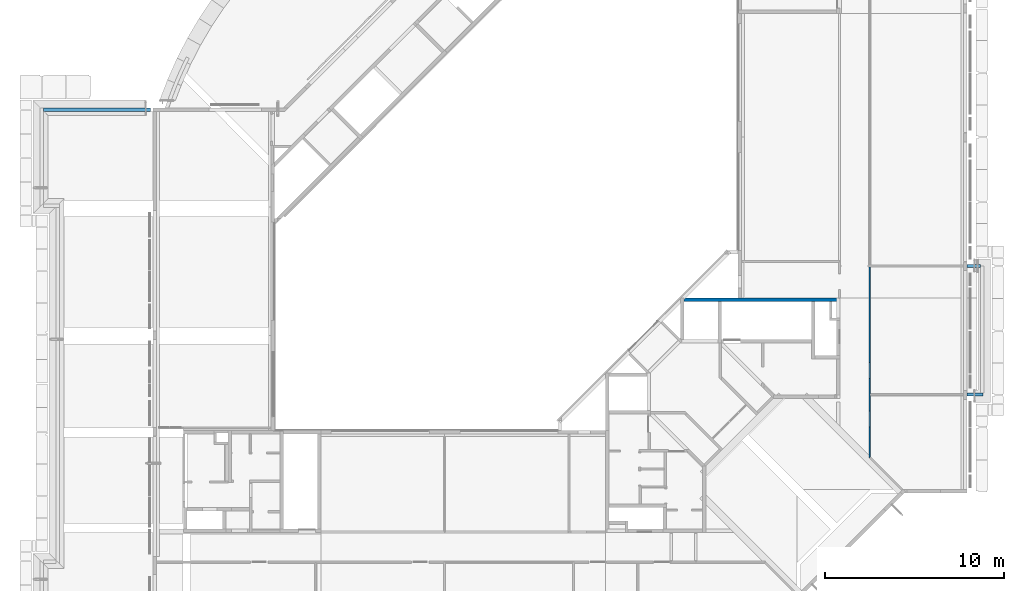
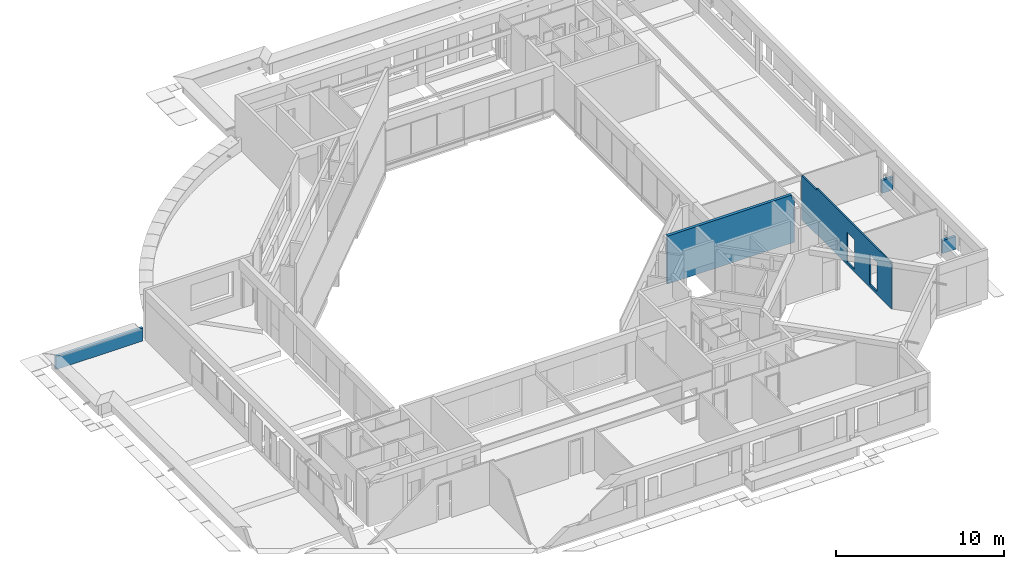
# One storey, part 24 of 38: 5 walls.
"""IFC4X3_ADD2 building model written with IfcOpenShell, lengths in millimetres."""

from ifc_helpers import new_model, si_unit, direction, frame, origin_with_axes, place, context, subcontext, project, spatial, polygons, source, transform, mapped, type_object, type_shapes, element, save


model = new_model("IFC4X3_ADD2")

# Units and contexts
model_context = context("Model", 3, precision=1e-05, world=origin_with_axes(), true_north=direction((0.0, 1.0)))
body_context = subcontext(model_context, "Body", "Model", "MODEL_VIEW")
ifc_project = project(units=[si_unit("LENGTHUNIT", "METRE", prefix="MILLI"), si_unit("AREAUNIT", "SQUARE_METRE"), si_unit("VOLUMEUNIT", "CUBIC_METRE"), si_unit("PLANEANGLEUNIT", "RADIAN"), si_unit("TIMEUNIT", "SECOND"), si_unit("MASSUNIT", "GRAM")], contexts=[model_context])

# Site, building, storey
site_placement = place(None, origin_with_axes())
site = spatial("IfcSite", under=ifc_project, at=site_placement, Name="Site", CompositionType="ELEMENT")
building_placement = place(site_placement, origin_with_axes())
building = spatial("IfcBuilding", under=site, at=building_placement, Name="IFC Building Story")
storey_placement = place(building_placement, frame((0.0, 0.0, 10800.0), z_axis=(0.0, 0.0, 1.0), x_axis=(1.0, 0.0, 0.0)))
storey = spatial("IfcBuildingStorey", under=building, at=storey_placement, Name="030", Elevation=10800.0)

# Walls
wall_type = type_object("IfcWallType", Name="Basic Wall_BB_10.01.41#03_Gipskartonwand_43dB_MS100 _ 25.50.25_ 100 mm67", PredefinedType="NOTDEFINED")
shared_shape = source(origin_with_axes(), body_context, "Body", "Tessellation", [
    polygons([(4509.11688245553, 37.5000000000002, 200.000000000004), (5399.11688245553, 37.4999999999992, 200.000000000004), (5399.11688245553, 49.9999999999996, 200.000000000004), (4509.11688245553, 49.9999999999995, 200.000000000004), (100.0, 49.9999999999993, 200.000000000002), (100.0, 49.9999999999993, 2.16573425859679e-12), (87.5000000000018, 37.5, 2.16573425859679e-12), (87.5000000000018, 37.5, 200.000000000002), (87.5000000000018, 37.5, 3200.0), (100.0, 49.9999999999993, 3200.0), (10759.1168824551, 49.9999999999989, 2.16573425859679e-12), (10759.1168824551, 49.9999999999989, 200.000000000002), (10759.1168824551, 49.9999999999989, 3200.0), (10759.1168824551, 37.4999999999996, 3200.0), (10759.1168824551, 37.4999999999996, 200.000000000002), (10759.1168824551, 37.4999999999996, 2.16573425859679e-12), (9009.11688245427, 37.4999999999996, 3200.0), (9009.11688245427, 37.4999999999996, 3340.0), (228.92135623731, 37.4999999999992, 3340.0), (228.921356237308, 37.4999999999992, 3200.0), (4509.11688245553, 37.5000000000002, 2360.00000000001), (5399.11688245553, 37.4999999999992, 2360.00000000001), (2709.11688245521, 37.5, 200.000000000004), (1819.11688245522, 37.5, 200.000000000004), (1819.11688245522, 37.5, 2360.00000000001), (2709.11688245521, 37.5, 2360.00000000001), (241.421356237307, 49.9999999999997, 3200.0), (241.421356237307, 49.9999999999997, 3340.0), (9009.11688245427, 49.9999999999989, 3340.0), (9009.11688245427, 49.9999999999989, 3200.0), (5399.11688245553, 49.9999999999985, 2360.00000000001), (4509.11688245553, 49.9999999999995, 2360.00000000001), (1819.11688245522, 49.9999999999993, 200.000000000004), (2709.11688245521, 49.9999999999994, 200.000000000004), (2709.11688245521, 49.9999999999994, 2360.00000000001), (1819.11688245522, 49.9999999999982, 2360.00000000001)], [[[1, 2, 3, 4]], [[5, 6, 7]], [[5, 7, 8]], [[8, 9, 10]], [[8, 10, 5]], [[12, 13, 14]], [[12, 14, 15]], [[15, 16, 11]], [[15, 11, 12]], [[7, 6, 11, 16]], [[2, 7, 16]], [[17, 18, 22]], [[22, 2, 15]], [[22, 15, 14]], [[22, 14, 17]], [[2, 16, 15]], [[18, 19, 21]], [[18, 21, 22]], [[24, 8, 7]], [[7, 23, 24]], [[24, 25, 20]], [[24, 20, 9]], [[24, 9, 8]], [[23, 7, 1]], [[1, 21, 26]], [[1, 26, 23]], [[26, 21, 19]], [[19, 20, 25]], [[19, 25, 26]], [[7, 2, 1]], [[3, 12, 11]], [[11, 4, 3]], [[11, 6, 4]], [[35, 36, 30]], [[32, 4, 34]], [[32, 34, 35]], [[35, 30, 32]], [[34, 4, 6]], [[6, 33, 34]], [[30, 31, 32]], [[30, 13, 12]], [[30, 12, 3]], [[30, 3, 31]], [[36, 27, 28]], [[36, 28, 29]], [[36, 29, 30]], [[36, 33, 5]], [[36, 5, 10]], [[36, 10, 27]], [[33, 6, 5]], [[13, 30, 17, 14]], [[33, 36, 25, 24]], [[4, 32, 21, 1]], [[35, 34, 23, 26]], [[31, 3, 2, 22]], [[32, 31, 22, 21]], [[36, 35, 26, 25]], [[28, 27, 20, 19]], [[29, 28, 19, 18]], [[30, 29, 18, 17]], [[27, 10, 9, 20]], [[24, 23, 34, 33]]]),
    polygons([(5399.11688245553, 37.4999999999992, 200.000000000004), (4509.11688245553, 37.5000000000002, 200.000000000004), (4509.11688245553, 24.9999999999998, 200.000000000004), (5399.11688245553, 24.9999999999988, 200.000000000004), (10759.1168824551, 24.9999999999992, 2.16573425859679e-12), (10759.1168824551, 37.4999999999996, 2.16573425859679e-12), (10759.1168824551, 37.4999999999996, 200.000000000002), (10759.1168824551, 24.9999999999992, 200.000000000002), (92.6776695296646, 24.9999999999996, 2.16573425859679e-12), (105.177669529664, 37.5, 2.16573425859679e-12), (105.177669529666, 37.5, 200.000000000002), (105.177669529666, 37.5, 3200.0), (228.921356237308, 37.4999999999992, 3200.0), (228.92135623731, 37.4999999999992, 3340.0), (9009.11688245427, 37.4999999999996, 3340.0), (9009.11688245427, 37.4999999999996, 3200.0), (10771.6168824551, 37.4999999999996, 3200.0), (10771.6168824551, 37.4999999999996, 200.000000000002), (5399.11688245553, 37.4999999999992, 2360.00000000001), (4509.11688245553, 37.5000000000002, 2360.00000000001), (1819.11688245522, 37.5, 200.000000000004), (2709.11688245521, 37.5, 200.000000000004), (2709.11688245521, 37.5, 2360.00000000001), (1819.11688245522, 37.5, 2360.00000000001), (10771.6168824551, 24.9999999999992, 200.000000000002), (10771.6168824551, 24.9999999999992, 3200.0), (9009.11688245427, 24.9999999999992, 3200.0), (9009.11688245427, 24.9999999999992, 3340.0), (216.421356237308, 24.9999999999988, 3340.0), (216.421356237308, 24.9999999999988, 3200.0), (92.6776695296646, 24.9999999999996, 3200.0), (92.6776695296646, 24.9999999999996, 200.000000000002), (4509.11688245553, 24.9999999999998, 2360.00000000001), (5399.11688245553, 24.9999999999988, 2360.00000000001), (2709.11688245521, 24.9999999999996, 200.000000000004), (1819.11688245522, 24.9999999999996, 200.000000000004), (1819.11688245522, 24.9999999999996, 2360.00000000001), (2709.11688245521, 24.9999999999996, 2360.00000000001)], [[[1, 2, 3, 4]], [[5, 6, 7, 8]], [[6, 5, 9, 10]], [[1, 7, 6]], [[6, 2, 1]], [[6, 10, 2]], [[23, 24, 16]], [[20, 2, 22]], [[20, 22, 23]], [[23, 16, 20]], [[22, 2, 10]], [[10, 21, 22]], [[16, 19, 20]], [[16, 17, 7]], [[16, 7, 1]], [[16, 1, 19]], [[17, 18, 7]], [[24, 13, 14]], [[24, 14, 15]], [[24, 15, 16]], [[24, 21, 11]], [[24, 11, 12]], [[24, 12, 13]], [[21, 10, 11]], [[4, 9, 5]], [[8, 25, 26]], [[27, 28, 34]], [[8, 26, 27]], [[8, 27, 34]], [[8, 34, 4]], [[4, 5, 8]], [[28, 29, 33]], [[28, 33, 34]], [[36, 32, 9]], [[9, 35, 36]], [[36, 37, 30]], [[36, 30, 31]], [[36, 31, 32]], [[35, 9, 3]], [[3, 33, 38]], [[3, 38, 35]], [[38, 33, 29]], [[29, 30, 37]], [[29, 37, 38]], [[9, 4, 3]], [[11, 10, 9]], [[11, 9, 32]], [[32, 31, 12]], [[32, 12, 11]], [[27, 26, 17, 16]], [[18, 25, 8, 7]], [[21, 24, 37, 36]], [[2, 20, 33, 3]], [[23, 22, 35, 38]], [[19, 1, 4, 34]], [[20, 19, 34, 33]], [[24, 23, 38, 37]], [[14, 13, 30, 29]], [[15, 14, 29, 28]], [[16, 15, 28, 27]], [[17, 26, 25, 18]], [[12, 31, 30, 13]], [[22, 21, 36, 35]]]),
    polygons([(5399.11688245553, 24.9999999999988, 200.000000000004), (4509.11688245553, 24.9999999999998, 200.000000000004), (4509.11688245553, -24.9999999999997, 200.000000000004), (5399.11688245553, -25.0, 200.000000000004), (10759.1168824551, -25.0, 2.16573425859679e-12), (10759.1168824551, 24.9999999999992, 2.16573425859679e-12), (10759.1168824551, 24.9999999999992, 200.000000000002), (10759.1168824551, -25.0, 200.000000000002), (60.3553390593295, -25.0, 2.16573425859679e-12), (110.355339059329, 24.9999999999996, 2.16573425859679e-12), (110.355339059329, 24.9999999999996, 200.000000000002), (110.355339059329, 24.9999999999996, 3200.0), (216.421356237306, 24.9999999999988, 3200.0), (216.421356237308, 24.9999999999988, 3340.0), (9009.11688245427, 24.9999999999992, 3340.0), (9009.11688245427, 24.9999999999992, 3200.0), (10784.1168824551, 24.9999999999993, 3200.0), (10784.1168824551, 24.9999999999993, 200.000000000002), (5399.11688245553, 24.9999999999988, 2360.00000000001), (4509.11688245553, 24.9999999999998, 2360.00000000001), (1819.11688245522, 24.9999999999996, 200.000000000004), (2709.11688245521, 24.9999999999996, 200.000000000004), (2709.11688245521, 24.9999999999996, 2360.00000000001), (1819.11688245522, 24.9999999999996, 2360.00000000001), (10784.1168824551, -25.0, 200.000000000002), (10784.1168824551, -25.0, 3200.0), (9009.11688245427, -25.0, 3200.0), (9009.11688245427, -25.0, 3340.0), (166.421356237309, -24.9999999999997, 3340.0), (166.421356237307, -24.9999999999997, 3200.0), (60.3553390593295, -25.0, 3200.0), (60.3553390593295, -25.0, 200.000000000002), (4509.11688245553, -24.9999999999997, 2360.00000000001), (5399.11688245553, -25.0, 2360.00000000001), (2709.11688245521, -24.9999999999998, 200.000000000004), (1819.11688245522, -24.9999999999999, 200.000000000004), (1819.11688245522, -24.9999999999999, 2360.00000000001), (2709.11688245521, -24.9999999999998, 2360.00000000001)], [[[1, 2, 3, 4]], [[5, 6, 7, 8]], [[6, 5, 9, 10]], [[1, 7, 6]], [[6, 2, 1]], [[6, 10, 2]], [[23, 24, 16]], [[20, 2, 22]], [[20, 22, 23]], [[23, 16, 20]], [[22, 2, 10]], [[10, 21, 22]], [[16, 19, 20]], [[16, 17, 7]], [[16, 7, 1]], [[16, 1, 19]], [[17, 18, 7]], [[24, 13, 14]], [[24, 14, 15]], [[24, 15, 16]], [[24, 21, 11]], [[24, 11, 12]], [[24, 12, 13]], [[21, 10, 11]], [[4, 9, 5]], [[8, 25, 26]], [[27, 28, 34]], [[8, 26, 27]], [[8, 27, 34]], [[8, 34, 4]], [[4, 5, 8]], [[28, 29, 33]], [[28, 33, 34]], [[36, 32, 9]], [[9, 35, 36]], [[36, 37, 30]], [[36, 30, 31]], [[36, 31, 32]], [[35, 9, 3]], [[3, 33, 38]], [[3, 38, 35]], [[38, 33, 29]], [[29, 30, 37]], [[29, 37, 38]], [[9, 4, 3]], [[11, 10, 9]], [[11, 9, 32]], [[32, 31, 12]], [[32, 12, 11]], [[27, 26, 17, 16]], [[18, 25, 8, 7]], [[21, 24, 37, 36]], [[2, 20, 33, 3]], [[23, 22, 35, 38]], [[19, 1, 4, 34]], [[20, 19, 34, 33]], [[24, 23, 38, 37]], [[14, 13, 30, 29]], [[15, 14, 29, 28]], [[16, 15, 28, 27]], [[17, 26, 25, 18]], [[12, 31, 30, 13]], [[22, 21, 36, 35]]]),
    polygons([(5399.11688245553, -25.0, 200.000000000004), (4509.11688245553, -24.9999999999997, 200.000000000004), (4509.11688245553, -37.5000000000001, 200.000000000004), (5399.11688245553, -37.5000000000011, 200.000000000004), (10759.1168824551, -37.5000000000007, 2.16573425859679e-12), (10759.1168824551, -25.0, 2.16573425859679e-12), (10759.1168824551, -25.0, 200.000000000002), (10759.1168824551, -25.0, 3200.0), (10759.1168824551, -37.5000000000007, 3200.0), (10759.1168824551, -37.5000000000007, 200.000000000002), (118.566017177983, -37.5000000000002, 2.16573425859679e-12), (131.066017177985, -24.9999999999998, 2.16573425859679e-12), (131.066017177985, -24.9999999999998, 200.000000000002), (131.066017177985, -24.9999999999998, 3200.0), (166.421356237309, -24.9999999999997, 3200.0), (166.421356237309, -24.9999999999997, 3340.0), (9009.11688245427, -25.0, 3340.0), (9009.11688245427, -25.0, 3200.0), (5399.11688245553, -25.0, 2360.00000000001), (4509.11688245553, -24.9999999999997, 2360.00000000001), (1819.11688245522, -24.9999999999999, 200.000000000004), (2709.11688245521, -24.9999999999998, 200.000000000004), (2709.11688245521, -24.9999999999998, 2360.00000000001), (1819.11688245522, -24.9999999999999, 2360.00000000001), (9009.11688245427, -37.5000000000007, 3200.0), (9009.11688245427, -37.5000000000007, 3340.0), (153.92135623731, -37.5000000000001, 3340.0), (153.92135623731, -37.5000000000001, 3200.0), (118.566017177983, -37.5000000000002, 3200.0), (118.566017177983, -37.5000000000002, 200.000000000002), (4509.11688245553, -37.5000000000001, 2360.00000000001), (5399.11688245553, -37.5000000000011, 2360.00000000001), (2709.11688245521, -37.5000000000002, 200.000000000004), (1819.11688245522, -37.5000000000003, 200.000000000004), (1819.11688245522, -37.5000000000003, 2360.00000000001), (2709.11688245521, -37.5000000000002, 2360.00000000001)], [[[1, 2, 3, 4]], [[7, 8, 9]], [[7, 9, 10]], [[10, 5, 6]], [[10, 6, 7]], [[6, 5, 11, 12]], [[1, 7, 6]], [[6, 2, 1]], [[6, 12, 2]], [[19, 20, 18]], [[18, 8, 7]], [[18, 7, 1]], [[18, 1, 19]], [[20, 15, 16]], [[20, 16, 17]], [[20, 17, 18]], [[24, 21, 13]], [[24, 13, 15]], [[15, 23, 24]], [[15, 20, 23]], [[20, 2, 22]], [[20, 22, 23]], [[22, 2, 12]], [[12, 21, 22]], [[13, 14, 15]], [[21, 12, 13]], [[4, 11, 5]], [[25, 26, 32]], [[32, 4, 10]], [[32, 10, 9]], [[32, 9, 25]], [[4, 5, 10]], [[26, 27, 31]], [[26, 31, 32]], [[30, 11, 28]], [[28, 29, 30]], [[33, 11, 3]], [[3, 31, 36]], [[3, 36, 33]], [[36, 31, 27]], [[27, 35, 36]], [[28, 11, 34]], [[28, 34, 35]], [[35, 27, 28]], [[11, 33, 34]], [[11, 4, 3]], [[13, 12, 11]], [[13, 11, 30]], [[30, 29, 14]], [[30, 14, 13]], [[25, 9, 8, 18]], [[21, 24, 35, 34]], [[2, 20, 31, 3]], [[23, 22, 33, 36]], [[19, 1, 4, 32]], [[20, 19, 32, 31]], [[24, 23, 36, 35]], [[16, 15, 28, 27]], [[17, 16, 27, 26]], [[18, 17, 26, 25]], [[14, 29, 28, 15]], [[22, 21, 34, 33]]]),
    polygons([(5399.11688245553, -37.5000000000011, 200.000000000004), (4509.11688245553, -37.5000000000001, 200.000000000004), (4509.11688245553, -50.0, 200.000000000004), (5399.11688245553, -50.0, 200.000000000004), (10759.1168824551, -37.5000000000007, 200.000000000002), (10759.1168824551, -37.5000000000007, 2.16573425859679e-12), (136.243686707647, -37.5000000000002, 2.16573425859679e-12), (136.243686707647, -37.5000000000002, 200.000000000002), (136.243686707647, -37.5000000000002, 3200.0), (153.92135623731, -37.5000000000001, 3200.0), (153.92135623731, -37.5000000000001, 3340.0), (9009.11688245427, -37.5000000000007, 3340.0), (9009.11688245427, -37.5000000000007, 3200.0), (10759.1168824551, -37.5000000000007, 3200.0), (5399.11688245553, -37.5000000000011, 2360.00000000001), (4509.11688245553, -37.5000000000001, 2360.00000000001), (1819.11688245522, -37.5000000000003, 200.000000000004), (2709.11688245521, -37.5000000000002, 200.000000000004), (2709.11688245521, -37.5000000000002, 2360.00000000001), (1819.11688245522, -37.5000000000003, 2360.00000000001), (10759.1168824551, -50.0000000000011, 3200.0), (10759.1168824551, -50.0000000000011, 200.000000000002), (10759.1168824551, -50.0000000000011, 2.16573425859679e-12), (141.42135623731, -50.0, 2.16573425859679e-12), (123.743686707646, -50.0, 2.16573425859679e-12), (9009.11688245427, -50.0000000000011, 3200.0), (9009.11688245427, -50.0000000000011, 3340.0), (3659.11688245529, -50.0, 3340.0), (3559.11688245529, -50.0, 3340.0), (141.42135623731, -50.0, 3340.0), (141.421356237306, -50.0, 3200.0), (123.743686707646, -50.0, 3200.0), (123.743686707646, -50.0, 200.000000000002), (4509.11688245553, -50.0, 2360.00000000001), (5399.11688245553, -50.0000000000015, 2360.00000000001), (2709.11688245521, -50.0, 200.000000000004), (1819.11688245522, -50.0, 200.000000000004), (1819.11688245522, -50.0, 2360.00000000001), (2709.11688245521, -50.0, 2360.00000000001)], [[[1, 2, 3, 4]], [[1, 5, 6]], [[6, 2, 1]], [[6, 7, 2]], [[15, 16, 13]], [[13, 14, 5]], [[13, 5, 1]], [[13, 1, 15]], [[16, 10, 11]], [[16, 11, 12]], [[16, 12, 13]], [[20, 17, 8]], [[20, 8, 10]], [[10, 19, 20]], [[10, 16, 19]], [[16, 2, 18]], [[16, 18, 19]], [[18, 2, 7]], [[7, 17, 18]], [[8, 9, 10]], [[17, 7, 8]], [[5, 14, 21]], [[5, 21, 22]], [[22, 23, 6]], [[22, 6, 5]], [[24, 25, 7]], [[7, 6, 23]], [[7, 23, 24]], [[4, 24, 23]], [[26, 27, 35]], [[35, 4, 22]], [[35, 22, 21]], [[35, 21, 26]], [[4, 23, 22]], [[27, 28, 35]], [[28, 34, 35]], [[33, 25, 24]], [[33, 24, 31]], [[31, 32, 33]], [[36, 24, 3]], [[3, 29, 39]], [[3, 39, 36]], [[29, 30, 38]], [[29, 38, 39]], [[31, 24, 37]], [[31, 37, 38]], [[38, 30, 31]], [[24, 36, 37]], [[3, 34, 28]], [[3, 28, 29]], [[24, 4, 3]], [[33, 32, 9]], [[33, 9, 8]], [[8, 7, 25]], [[8, 25, 33]], [[14, 13, 26, 21]], [[17, 20, 38, 37]], [[2, 16, 34, 3]], [[19, 18, 36, 39]], [[15, 1, 4, 35]], [[16, 15, 35, 34]], [[20, 19, 39, 38]], [[11, 10, 31, 30]], [[28, 27, 12]], [[12, 29, 28]], [[12, 11, 29]], [[11, 30, 29]], [[13, 12, 27, 26]], [[10, 9, 32, 31]], [[18, 17, 37, 36]]]),
])
type_shapes(wall_type, [shared_shape])
wall_1_placement = place(storey_placement, frame((-5350.0, 11090.883117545, -200.0), z_axis=(0.0, 0.0, 1.0), x_axis=(0.0, 1.0, 0.0)))
element("IfcWall", 1, at=wall_1_placement, inside=storey, type_object=wall_type, Name="Basic Wall:BB_10.01.41#03_Gipskartonwand_43dB_MS100 / 25.50.25, 100 mm", ObjectType="Basic Wall:BB_10.01.41#03_Gipskartonwand_43dB_MS100 / 25.50.25, 100 mm", PredefinedType="PARTITIONING", context=body_context, shape_type="MappedRepresentation", body=[
    mapped(shared_shape, transform((0.0, 0.0, 0.0))),
])
wall_2_placement = place(storey_placement, frame((0.0, 0.0, -10800.0), z_axis=(0.0, 0.0, 1.0), x_axis=(1.0, 0.0, 0.0)))
element("IfcWall", 2, at=wall_2_placement, inside=storey, Name="Basic Wall:BB_XX_Wand uit beton, 200 mm", ObjectType="Basic Wall:BB_XX_Wand uit beton, 200 mm", PredefinedType="SOLIDWALL", context=body_context, shape_type="Tessellation", body=[
    polygons([(-15715.0, 19900.0, 10720.0), (-13815.0, 19900.0, 10720.0), (-13615.0, 19900.0, 10720.0), (-8600.0, 19900.0, 10720.0), (-8400.0, 19900.0, 10720.0), (-7025.0, 19900.0, 10720.0), (-7025.0, 19900.0, 13940.0), (-7200.000000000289, 19900.0, 13940.0), (-7200.000000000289, 19900.0, 14200.0), (-8400.0, 19900.0, 14200.0), (-8600.0, 19900.0, 14200.0), (-13615.0, 19900.0, 14200.0), (-13815.0, 19900.0, 14200.0), (-15715.0, 19900.0, 14200.0), (-7025.0, 20100.0, 10720.0), (-15715.0, 20100.0, 10720.0), (-15715.0, 20100.0, 14200.0), (-7200.000000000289, 20100.0, 14200.0), (-7200.000000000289, 20100.0, 13940.0), (-7025.0, 20100.0, 13940.0)], [[[8, 9, 10]], [[8, 10, 5]], [[8, 5, 6]], [[6, 7, 8]], [[10, 11, 4]], [[10, 4, 5]], [[11, 12, 3]], [[11, 3, 4]], [[12, 13, 2]], [[12, 2, 3]], [[13, 14, 1]], [[13, 1, 2]], [[19, 20, 15]], [[19, 15, 16]], [[19, 16, 17]], [[17, 18, 19]], [[2, 1, 16]], [[16, 3, 2]], [[3, 16, 15]], [[15, 4, 3]], [[15, 5, 4]], [[15, 6, 5]], [[6, 15, 20, 7]], [[10, 9, 18]], [[18, 11, 10]], [[18, 12, 11]], [[18, 17, 12]], [[17, 13, 12]], [[17, 14, 13]], [[19, 8, 7, 20]], [[8, 19, 18, 9]], [[14, 17, 16, 1]]]),
])
wall_3_placement = place(storey_placement, frame((0.0, 0.0, -10800.0), z_axis=(0.0, 0.0, 1.0), x_axis=(1.0, 0.0, 0.0)))
element("IfcWall", 3, at=wall_3_placement, inside=storey, Name="Basic Wall:BB_XX_Wand uit beton, 190 mm", ObjectType="Basic Wall:BB_XX_Wand uit beton, 190 mm", PredefinedType="SOLIDWALL", context=body_context, shape_type="Tessellation", body=[
    polygons([(-51505.0, 30535.0, 10600.0), (-45529.99999999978, 30535.0, 10600.0), (-45529.99999999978, 30535.0, 11541.0), (-45759.00000000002, 30535.0, 11541.0), (-45759.00000000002, 30535.0, 11537.99999999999), (-45831.00000000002, 30535.0, 11537.99999999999), (-45831.00000000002, 30535.0, 11541.0), (-51505.0, 30535.0, 11541.0), (-45529.99999999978, 30725.0, 10600.0), (-51505.0, 30725.0, 10600.0), (-51505.0, 30725.0, 11540.0), (-51505.0, 30725.0, 11541.0), (-45831.00000000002, 30725.0, 11541.0), (-45831.00000000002, 30725.0, 11537.99999999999), (-45759.00000000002, 30725.0, 11537.99999999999), (-45759.00000000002, 30725.0, 11541.0), (-45529.99999999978, 30725.0, 11541.0)], [[[6, 7, 8]], [[6, 8, 1]], [[6, 1, 2]], [[2, 5, 6]], [[2, 3, 5]], [[3, 4, 5]], [[11, 12, 13]], [[15, 16, 17]], [[15, 17, 9]], [[9, 14, 15]], [[9, 10, 11]], [[9, 11, 14]], [[11, 13, 14]], [[2, 1, 10, 9]], [[3, 17, 16, 4]], [[11, 10, 1]], [[11, 1, 8]], [[8, 12, 11]], [[3, 2, 9, 17]], [[6, 14, 13, 7]], [[14, 6, 5, 15]], [[15, 5, 4, 16]], [[12, 8, 7, 13]]]),
])
wall_4_placement = place(storey_placement, frame((0.0, 0.0, -10800.0), z_axis=(0.0, 0.0, 1.0), x_axis=(1.0, 0.0, 0.0)))
element("IfcWall", 4, at=wall_4_placement, inside=storey, Name="Basic Wall:BB_XX_Wand uit beton, 170 mm", ObjectType="Basic Wall:BB_XX_Wand uit beton, 170 mm", PredefinedType="SOLIDWALL", context=body_context, shape_type="Tessellation", body=[
    polygons([(995.0, 14795.0, 10600.0), (839.999999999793, 14795.0, 10600.0), (95.00000000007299, 14795.0, 10600.0), (95.00000000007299, 14795.0, 11542.10737233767), (458.999999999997, 14795.0, 11542.10737233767), (458.999999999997, 14795.0, 11537.99999999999), (530.999999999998, 14795.0, 11537.99999999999), (530.999999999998, 14795.0, 11542.10737233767), (995.0, 14795.0, 11542.10737233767), (95.00000000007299, 14625.0, 10600.0), (995.0, 14625.0, 10600.0), (995.0, 14625.0, 11542.10737233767), (530.999999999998, 14625.0, 11542.10737233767), (530.999999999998, 14625.0, 11537.99999999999), (458.999999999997, 14625.0, 11537.99999999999), (458.999999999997, 14625.0, 11542.10737233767), (95.00000000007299, 14625.0, 11542.10737233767)], [[[7, 8, 9]], [[7, 9, 2]], [[2, 3, 6]], [[2, 6, 7]], [[3, 4, 6]], [[4, 5, 6]], [[9, 1, 2]], [[15, 16, 17]], [[15, 17, 10]], [[10, 14, 15]], [[10, 11, 12]], [[10, 12, 14]], [[12, 13, 14]], [[2, 1, 11]], [[11, 10, 3]], [[11, 3, 2]], [[4, 3, 10, 17]], [[4, 17, 16, 5]], [[1, 9, 12, 11]], [[7, 14, 13, 8]], [[14, 7, 6, 15]], [[15, 6, 5, 16]], [[12, 9, 8, 13]]]),
])
wall_5_placement = place(storey_placement, frame((0.0, 0.0, -10800.0), z_axis=(0.0, 0.0, 1.0), x_axis=(1.0, 0.0, 0.0)))
element("IfcWall", 5, at=wall_5_placement, inside=storey, Name="Basic Wall:BB_XX_Wand uit beton, 170 mm", ObjectType="Basic Wall:BB_XX_Wand uit beton, 170 mm", PredefinedType="SOLIDWALL", context=body_context, shape_type="Tessellation", body=[
    polygons([(458.999999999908, 21975.0, 11540.0), (95.000000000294, 21975.0, 11540.0), (95.000000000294, 21805.0, 11540.0), (458.999999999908, 21805.0, 11540.0), (839.9999999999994, 21975.0, 11540.0), (530.999999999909, 21975.0, 11540.0), (530.999999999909, 21805.0, 11540.0), (840.0, 21805.0, 11540.0), (839.9999999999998, 21890.0, 11540.0), (530.999999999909, 21975.0, 11537.99999999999), (458.999999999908, 21975.0, 11537.99999999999), (458.999999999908, 21805.0, 11537.99999999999), (530.999999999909, 21805.0, 11537.99999999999), (839.9999999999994, 21975.0, 10600.0), (95.000000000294, 21975.0, 10600.0), (726.425893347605, 21975.0, 11354.7001820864), (729.5989880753, 21975.0, 11367.58510374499), (729.5989880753, 21975.0, 11380.85564316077), (726.425893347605, 21975.0, 11393.74056481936), (720.264112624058, 21975.0, 11405.49104390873), (711.471746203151, 21975.0, 11415.42418529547), (700.559774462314, 21975.0, 11422.96271090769), (688.162361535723, 21975.0, 11427.66850903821), (674.999999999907, 21975.0, 11429.26809580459), (661.837638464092, 21975.0, 11427.66850903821), (649.4402255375, 21975.0, 11422.96271090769), (638.528253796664, 21975.0, 11415.42418529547), (629.735887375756, 21975.0, 11405.49104390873), (623.574106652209, 21975.0, 11393.74056481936), (620.401011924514, 21975.0, 11380.85564316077), (620.401011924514, 21975.0, 11367.58510374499), (623.574106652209, 21975.0, 11354.7001820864), (629.735887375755, 21975.0, 11342.94970299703), (638.528253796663, 21975.0, 11333.01656161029), (649.440225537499, 21975.0, 11325.47803599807), (661.83763846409, 21975.0, 11320.77223786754), (674.999999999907, 21975.0, 11319.17265110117), (688.162361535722, 21975.0, 11320.77223786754), (700.559774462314, 21975.0, 11325.47803599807), (711.47174620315, 21975.0, 11333.01656161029), (720.264112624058, 21975.0, 11342.94970299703), (95.000000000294, 21805.0, 10600.0), (840.0, 21805.0, 10600.0), (623.574106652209, 21805.0, 11361.78351541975), (620.401011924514, 21805.0, 11374.66843707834), (620.401011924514, 21805.0, 11387.93897649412), (623.574106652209, 21805.0, 11400.82389815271), (629.735887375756, 21805.0, 11412.57437724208), (638.528253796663, 21805.0, 11422.50751862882), (649.4402255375, 21805.0, 11430.04604424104), (661.837638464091, 21805.0, 11434.75184237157), (674.999999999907, 21805.0, 11436.35142913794), (688.162361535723, 21805.0, 11434.75184237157), (700.559774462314, 21805.0, 11430.04604424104), (711.471746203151, 21805.0, 11422.50751862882), (720.264112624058, 21805.0, 11412.57437724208), (726.425893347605, 21805.0, 11400.82389815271), (729.5989880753, 21805.0, 11387.93897649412), (729.5989880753, 21805.0, 11374.66843707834), (726.425893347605, 21805.0, 11361.78351541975), (720.264112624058, 21805.0, 11350.03303633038), (711.471746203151, 21805.0, 11340.09989494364), (700.559774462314, 21805.0, 11332.56136933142), (688.162361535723, 21805.0, 11327.85557120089), (674.999999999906, 21805.0, 11326.25598443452), (661.837638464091, 21805.0, 11327.85557120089), (649.440225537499, 21805.0, 11332.56136933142), (638.528253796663, 21805.0, 11340.09989494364), (629.735887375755, 21805.0, 11350.03303633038), (839.9999999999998, 21890.0, 10600.0)], [[[1, 2, 3, 4]], [[9, 5, 6]], [[9, 6, 7]], [[7, 8, 9]], [[10, 11, 12, 13]], [[10, 6, 5]], [[41, 16, 5]], [[41, 5, 14]], [[14, 40, 41]], [[14, 39, 40]], [[14, 38, 39]], [[14, 37, 38]], [[14, 36, 37]], [[14, 35, 36]], [[14, 15, 34]], [[14, 34, 35]], [[15, 33, 34]], [[15, 11, 33]], [[11, 32, 33]], [[11, 31, 32]], [[11, 30, 31]], [[11, 29, 30]], [[11, 28, 29]], [[11, 10, 27]], [[11, 27, 28]], [[10, 26, 27]], [[10, 25, 26]], [[10, 24, 25]], [[10, 5, 23]], [[10, 23, 24]], [[5, 22, 23]], [[5, 21, 22]], [[5, 20, 21]], [[5, 19, 20]], [[5, 18, 19]], [[5, 17, 18]], [[5, 16, 17]], [[15, 2, 11]], [[2, 1, 11]], [[12, 4, 3]], [[3, 44, 12]], [[44, 13, 12]], [[69, 44, 3]], [[3, 68, 69]], [[3, 42, 43]], [[3, 43, 67]], [[3, 67, 68]], [[43, 66, 67]], [[43, 65, 66]], [[43, 64, 65]], [[43, 63, 64]], [[43, 62, 63]], [[43, 61, 62]], [[43, 60, 61]], [[43, 8, 60]], [[8, 59, 60]], [[8, 58, 59]], [[8, 57, 58]], [[8, 56, 57]], [[8, 55, 56]], [[8, 54, 55]], [[8, 53, 54]], [[8, 13, 52]], [[8, 52, 53]], [[13, 51, 52]], [[13, 50, 51]], [[13, 49, 50]], [[13, 48, 49]], [[13, 47, 48]], [[13, 46, 47]], [[13, 45, 46]], [[13, 44, 45]], [[8, 7, 13]], [[70, 43, 42]], [[42, 15, 14]], [[42, 14, 70]], [[2, 15, 42, 3]], [[59, 58, 18, 17]], [[6, 10, 13, 7]], [[50, 26, 25, 51]], [[51, 25, 24, 52]], [[46, 30, 29, 47]], [[48, 28, 27, 49]], [[28, 48, 47, 29]], [[49, 27, 26, 50]], [[46, 45, 31, 30]], [[11, 1, 4, 12]], [[70, 14, 5]], [[70, 5, 9]], [[9, 8, 43]], [[9, 43, 70]], [[31, 45, 44, 32]], [[32, 44, 69, 33]], [[66, 36, 35, 67]], [[35, 34, 68, 67]], [[33, 69, 68, 34]], [[36, 66, 65, 37]], [[38, 37, 65, 64]], [[38, 64, 63, 39]], [[41, 40, 62, 61]], [[61, 60, 16, 41]], [[39, 63, 62, 40]], [[17, 16, 60, 59]], [[57, 56, 20, 19]], [[58, 57, 19, 18]], [[55, 54, 22, 21]], [[53, 52, 24, 23]], [[54, 53, 23, 22]], [[56, 55, 21, 20]]]),
])

save(model, "model.ifc")
